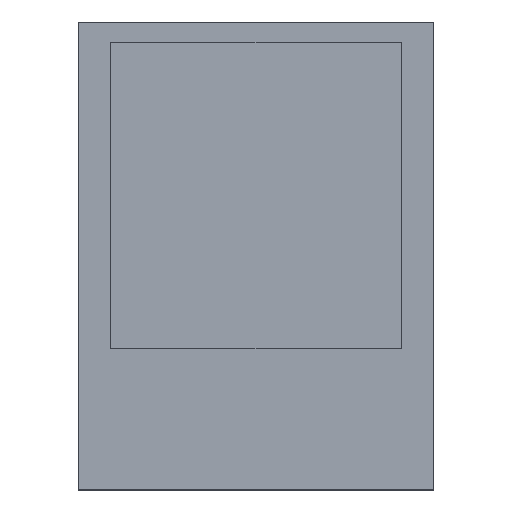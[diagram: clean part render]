
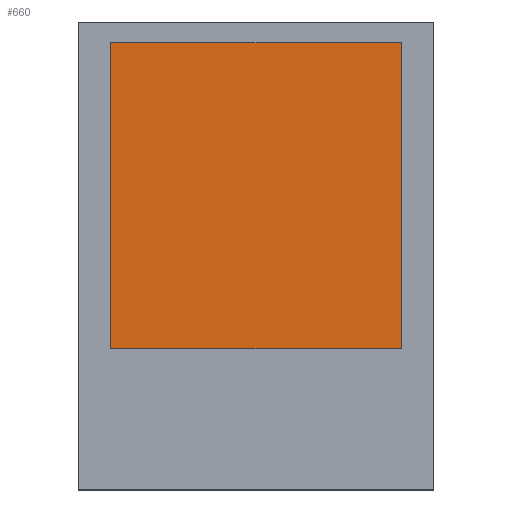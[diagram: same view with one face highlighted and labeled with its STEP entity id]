
A CAD part, top view. The second image highlights one B-rep face of the part: STEP entity #660.
In plain terms, the highlighted planar face has unit normal (0, 0, 1).
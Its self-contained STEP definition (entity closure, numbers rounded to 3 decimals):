
#283 = PLANE('',#284);
#284 = AXIS2_PLACEMENT_3D('',#285,#286,#287);
#285 = CARTESIAN_POINT('',(-4.9,-3.14,0.8));
#286 = DIRECTION('',(1.,0.,0.));
#287 = DIRECTION('',(0.,0.,1.));
#311 = PLANE('',#312);
#312 = AXIS2_PLACEMENT_3D('',#313,#314,#315);
#313 = CARTESIAN_POINT('',(-4.9,7.2,0.8));
#314 = DIRECTION('',(0.,1.,0.));
#315 = DIRECTION('',(0.,0.,1.));
#339 = PLANE('',#340);
#340 = AXIS2_PLACEMENT_3D('',#341,#342,#343);
#341 = CARTESIAN_POINT('',(4.9,-3.14,0.8));
#342 = DIRECTION('',(1.,0.,0.));
#343 = DIRECTION('',(0.,0.,1.));
#365 = PLANE('',#366);
#366 = AXIS2_PLACEMENT_3D('',#367,#368,#369);
#367 = CARTESIAN_POINT('',(-4.9,-3.14,0.8));
#368 = DIRECTION('',(0.,1.,0.));
#369 = DIRECTION('',(0.,0.,1.));
#464 = VERTEX_POINT('',#465);
#465 = CARTESIAN_POINT('',(-4.9,-3.14,2.));
#488 = VERTEX_POINT('',#489);
#489 = CARTESIAN_POINT('',(-4.9,7.2,2.));
#510 = EDGE_CURVE('',#464,#488,#511,.T.);
#511 = SURFACE_CURVE('',#512,(#516,#523),.PCURVE_S1.);
#512 = LINE('',#513,#514);
#513 = CARTESIAN_POINT('',(-4.9,-3.14,2.));
#514 = VECTOR('',#515,1.);
#515 = DIRECTION('',(0.,1.,0.));
#516 = PCURVE('',#283,#517);
#517 = DEFINITIONAL_REPRESENTATION('',(#518),#522);
#518 = LINE('',#519,#520);
#519 = CARTESIAN_POINT('',(1.2,0.));
#520 = VECTOR('',#521,1.);
#521 = DIRECTION('',(0.,-1.));
#522 = ( GEOMETRIC_REPRESENTATION_CONTEXT(2) 
PARAMETRIC_REPRESENTATION_CONTEXT() REPRESENTATION_CONTEXT('2D SPACE',''
  ) );
#523 = PCURVE('',#524,#529);
#524 = PLANE('',#525);
#525 = AXIS2_PLACEMENT_3D('',#526,#527,#528);
#526 = CARTESIAN_POINT('',(-4.9,-3.14,2.));
#527 = DIRECTION('',(0.,0.,1.));
#528 = DIRECTION('',(1.,0.,0.));
#529 = DEFINITIONAL_REPRESENTATION('',(#530),#534);
#530 = LINE('',#531,#532);
#531 = CARTESIAN_POINT('',(0.,0.));
#532 = VECTOR('',#533,1.);
#533 = DIRECTION('',(0.,1.));
#534 = ( GEOMETRIC_REPRESENTATION_CONTEXT(2) 
PARAMETRIC_REPRESENTATION_CONTEXT() REPRESENTATION_CONTEXT('2D SPACE',''
  ) );
#541 = EDGE_CURVE('',#464,#542,#544,.T.);
#542 = VERTEX_POINT('',#543);
#543 = CARTESIAN_POINT('',(4.9,-3.14,2.));
#544 = SURFACE_CURVE('',#545,(#549,#556),.PCURVE_S1.);
#545 = LINE('',#546,#547);
#546 = CARTESIAN_POINT('',(-4.9,-3.14,2.));
#547 = VECTOR('',#548,1.);
#548 = DIRECTION('',(1.,0.,0.));
#549 = PCURVE('',#365,#550);
#550 = DEFINITIONAL_REPRESENTATION('',(#551),#555);
#551 = LINE('',#552,#553);
#552 = CARTESIAN_POINT('',(1.2,0.));
#553 = VECTOR('',#554,1.);
#554 = DIRECTION('',(0.,1.));
#555 = ( GEOMETRIC_REPRESENTATION_CONTEXT(2) 
PARAMETRIC_REPRESENTATION_CONTEXT() REPRESENTATION_CONTEXT('2D SPACE',''
  ) );
#556 = PCURVE('',#524,#557);
#557 = DEFINITIONAL_REPRESENTATION('',(#558),#562);
#558 = LINE('',#559,#560);
#559 = CARTESIAN_POINT('',(0.,0.));
#560 = VECTOR('',#561,1.);
#561 = DIRECTION('',(1.,0.));
#562 = ( GEOMETRIC_REPRESENTATION_CONTEXT(2) 
PARAMETRIC_REPRESENTATION_CONTEXT() REPRESENTATION_CONTEXT('2D SPACE',''
  ) );
#591 = VERTEX_POINT('',#592);
#592 = CARTESIAN_POINT('',(4.9,7.2,2.));
#613 = EDGE_CURVE('',#542,#591,#614,.T.);
#614 = SURFACE_CURVE('',#615,(#619,#626),.PCURVE_S1.);
#615 = LINE('',#616,#617);
#616 = CARTESIAN_POINT('',(4.9,-3.14,2.));
#617 = VECTOR('',#618,1.);
#618 = DIRECTION('',(0.,1.,0.));
#619 = PCURVE('',#339,#620);
#620 = DEFINITIONAL_REPRESENTATION('',(#621),#625);
#621 = LINE('',#622,#623);
#622 = CARTESIAN_POINT('',(1.2,0.));
#623 = VECTOR('',#624,1.);
#624 = DIRECTION('',(0.,-1.));
#625 = ( GEOMETRIC_REPRESENTATION_CONTEXT(2) 
PARAMETRIC_REPRESENTATION_CONTEXT() REPRESENTATION_CONTEXT('2D SPACE',''
  ) );
#626 = PCURVE('',#524,#627);
#627 = DEFINITIONAL_REPRESENTATION('',(#628),#632);
#628 = LINE('',#629,#630);
#629 = CARTESIAN_POINT('',(9.8,0.));
#630 = VECTOR('',#631,1.);
#631 = DIRECTION('',(0.,1.));
#632 = ( GEOMETRIC_REPRESENTATION_CONTEXT(2) 
PARAMETRIC_REPRESENTATION_CONTEXT() REPRESENTATION_CONTEXT('2D SPACE',''
  ) );
#639 = EDGE_CURVE('',#488,#591,#640,.T.);
#640 = SURFACE_CURVE('',#641,(#645,#652),.PCURVE_S1.);
#641 = LINE('',#642,#643);
#642 = CARTESIAN_POINT('',(-4.9,7.2,2.));
#643 = VECTOR('',#644,1.);
#644 = DIRECTION('',(1.,0.,0.));
#645 = PCURVE('',#311,#646);
#646 = DEFINITIONAL_REPRESENTATION('',(#647),#651);
#647 = LINE('',#648,#649);
#648 = CARTESIAN_POINT('',(1.2,0.));
#649 = VECTOR('',#650,1.);
#650 = DIRECTION('',(0.,1.));
#651 = ( GEOMETRIC_REPRESENTATION_CONTEXT(2) 
PARAMETRIC_REPRESENTATION_CONTEXT() REPRESENTATION_CONTEXT('2D SPACE',''
  ) );
#652 = PCURVE('',#524,#653);
#653 = DEFINITIONAL_REPRESENTATION('',(#654),#658);
#654 = LINE('',#655,#656);
#655 = CARTESIAN_POINT('',(0.,10.34));
#656 = VECTOR('',#657,1.);
#657 = DIRECTION('',(1.,0.));
#658 = ( GEOMETRIC_REPRESENTATION_CONTEXT(2) 
PARAMETRIC_REPRESENTATION_CONTEXT() REPRESENTATION_CONTEXT('2D SPACE',''
  ) );
#660 = ADVANCED_FACE('',(#661),#524,.T.);
#661 = FACE_BOUND('',#662,.T.);
#662 = EDGE_LOOP('',(#663,#664,#665,#666));
#663 = ORIENTED_EDGE('',*,*,#510,.F.);
#664 = ORIENTED_EDGE('',*,*,#541,.T.);
#665 = ORIENTED_EDGE('',*,*,#613,.T.);
#666 = ORIENTED_EDGE('',*,*,#639,.F.);
